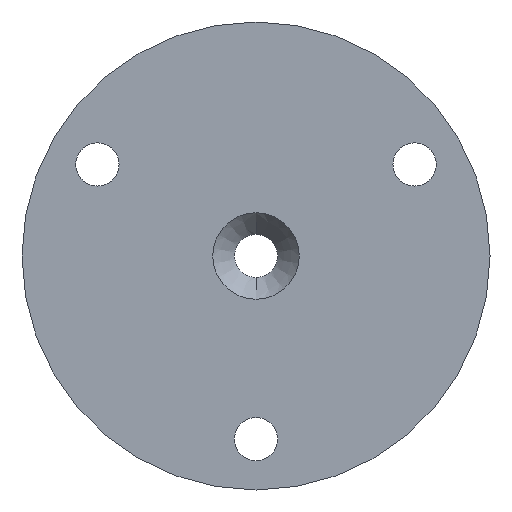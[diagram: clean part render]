
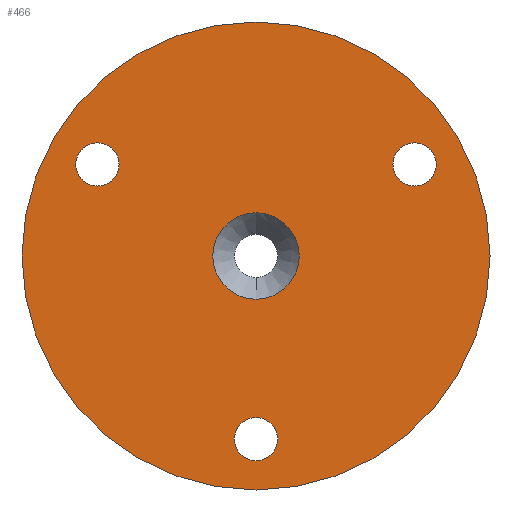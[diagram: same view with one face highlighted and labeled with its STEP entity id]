
A CAD part, front view. The second image highlights one B-rep face of the part: STEP entity #466.
In plain terms, the highlighted planar face has unit normal (0, -1, 0).
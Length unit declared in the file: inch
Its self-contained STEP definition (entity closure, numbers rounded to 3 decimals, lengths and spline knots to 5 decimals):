
#17 = ORIENTED_EDGE ( 'NONE', *, *, #82, .F. ) ;
#26 = AXIS2_PLACEMENT_3D ( 'NONE', #704, #321, #773 ) ;
#51 = DIRECTION ( 'NONE',  ( 0., 1., 0. ) ) ;
#56 = FACE_BOUND ( 'NONE', #469, .T. ) ;
#63 = FACE_BOUND ( 'NONE', #724, .T. ) ;
#76 = CIRCLE ( 'NONE', #26, 0.2655 ) ;
#78 = VERTEX_POINT ( 'NONE', #598 ) ;
#82 = EDGE_CURVE ( 'NONE', #689, #456, #242, .T. ) ;
#90 = DIRECTION ( 'NONE',  ( 0., 0., 1. ) ) ;
#103 = CARTESIAN_POINT ( 'NONE',  ( -0.97428, -0.125, 0.5625 ) ) ;
#120 = CARTESIAN_POINT ( 'NONE',  ( 0., -0.125, -1.125 ) ) ;
#124 = EDGE_LOOP ( 'NONE', ( #551, #230 ) ) ;
#127 = CARTESIAN_POINT ( 'NONE',  ( 0., -0.125, 0. ) ) ;
#137 = ORIENTED_EDGE ( 'NONE', *, *, #531, .T. ) ;
#143 = ORIENTED_EDGE ( 'NONE', *, *, #297, .T. ) ;
#149 = ORIENTED_EDGE ( 'NONE', *, *, #803, .F. ) ;
#160 = AXIS2_PLACEMENT_3D ( 'NONE', #255, #703, #320 ) ;
#161 = CIRCLE ( 'NONE', #457, 0.133 ) ;
#174 = CARTESIAN_POINT ( 'NONE',  ( 0., -0.125, 0. ) ) ;
#230 = ORIENTED_EDGE ( 'NONE', *, *, #250, .F. ) ;
#232 = CARTESIAN_POINT ( 'NONE',  ( 0., -0.125, 0. ) ) ;
#234 = AXIS2_PLACEMENT_3D ( 'NONE', #673, #328, #777 ) ;
#238 = EDGE_LOOP ( 'NONE', ( #143, #608 ) ) ;
#240 = DIRECTION ( 'NONE',  ( 0., 0., 1. ) ) ;
#242 = CIRCLE ( 'NONE', #365, 1.4375 ) ;
#245 = AXIS2_PLACEMENT_3D ( 'NONE', #127, #575, #90 ) ;
#250 = EDGE_CURVE ( 'NONE', #78, #537, #406, .T. ) ;
#255 = CARTESIAN_POINT ( 'NONE',  ( 0.97428, -0.125, 0.5625 ) ) ;
#262 = CIRCLE ( 'NONE', #160, 0.133 ) ;
#275 = ORIENTED_EDGE ( 'NONE', *, *, #772, .T. ) ;
#279 = CIRCLE ( 'NONE', #234, 0.133 ) ;
#281 = AXIS2_PLACEMENT_3D ( 'NONE', #232, #678, #299 ) ;
#286 = CIRCLE ( 'NONE', #245, 1.4375 ) ;
#289 = CIRCLE ( 'NONE', #651, 0.133 ) ;
#295 = CARTESIAN_POINT ( 'NONE',  ( 0., -0.125, 1.4375 ) ) ;
#297 = EDGE_CURVE ( 'NONE', #735, #641, #289, .T. ) ;
#299 = DIRECTION ( 'NONE',  ( 0., 0., 1. ) ) ;
#302 = DIRECTION ( 'NONE',  ( 0., 0., -1. ) ) ;
#320 = DIRECTION ( 'NONE',  ( 0., 0., 1. ) ) ;
#321 = DIRECTION ( 'NONE',  ( 0., -1., 0. ) ) ;
#322 = AXIS2_PLACEMENT_3D ( 'NONE', #103, #552, #240 ) ;
#327 = FACE_BOUND ( 'NONE', #124, .T. ) ;
#328 = DIRECTION ( 'NONE',  ( 0., 1., 0. ) ) ;
#336 = ORIENTED_EDGE ( 'NONE', *, *, #614, .T. ) ;
#359 = PLANE ( 'NONE',  #281 ) ;
#362 = AXIS2_PLACEMENT_3D ( 'NONE', #120, #568, #688 ) ;
#365 = AXIS2_PLACEMENT_3D ( 'NONE', #804, #385, #627 ) ;
#382 = FACE_OUTER_BOUND ( 'NONE', #671, .T. ) ;
#385 = DIRECTION ( 'NONE',  ( 0., 1., 0. ) ) ;
#406 = CIRCLE ( 'NONE', #567, 0.2655 ) ;
#435 = CARTESIAN_POINT ( 'NONE',  ( 0.97428, -0.125, 0.4295 ) ) ;
#440 = CARTESIAN_POINT ( 'NONE',  ( 0.97428, -0.125, 0.5625 ) ) ;
#456 = VERTEX_POINT ( 'NONE', #295 ) ;
#457 = AXIS2_PLACEMENT_3D ( 'NONE', #440, #51, #502 ) ;
#464 = CARTESIAN_POINT ( 'NONE',  ( -0.97428, -0.125, 0.6955 ) ) ;
#466 = ADVANCED_FACE ( 'NONE', ( #327, #63, #518, #56, #382 ), #359, .F. ) ;
#469 = EDGE_LOOP ( 'NONE', ( #275, #336 ) ) ;
#471 = DIRECTION ( 'NONE',  ( 0., 0., 1. ) ) ;
#476 = CARTESIAN_POINT ( 'NONE',  ( 0., -0.125, -0.2655 ) ) ;
#477 = EDGE_CURVE ( 'NONE', #561, #534, #279, .T. ) ;
#486 = EDGE_CURVE ( 'NONE', #641, #735, #513, .T. ) ;
#488 = CIRCLE ( 'NONE', #362, 0.133 ) ;
#489 = VERTEX_POINT ( 'NONE', #435 ) ;
#502 = DIRECTION ( 'NONE',  ( 0., 0., 1. ) ) ;
#513 = CIRCLE ( 'NONE', #322, 0.133 ) ;
#518 = FACE_BOUND ( 'NONE', #238, .T. ) ;
#531 = EDGE_CURVE ( 'NONE', #534, #561, #488, .T. ) ;
#533 = DIRECTION ( 'NONE',  ( 0., 1., 0. ) ) ;
#534 = VERTEX_POINT ( 'NONE', #684 ) ;
#535 = CARTESIAN_POINT ( 'NONE',  ( -0.97428, -0.125, 0.5625 ) ) ;
#537 = VERTEX_POINT ( 'NONE', #476 ) ;
#551 = ORIENTED_EDGE ( 'NONE', *, *, #744, .F. ) ;
#552 = DIRECTION ( 'NONE',  ( 0., 1., 0. ) ) ;
#561 = VERTEX_POINT ( 'NONE', #760 ) ;
#567 = AXIS2_PLACEMENT_3D ( 'NONE', #174, #669, #302 ) ;
#568 = DIRECTION ( 'NONE',  ( 0., 1., 0. ) ) ;
#575 = DIRECTION ( 'NONE',  ( 0., 1., 0. ) ) ;
#598 = CARTESIAN_POINT ( 'NONE',  ( 0., -0.125, 0.2655 ) ) ;
#608 = ORIENTED_EDGE ( 'NONE', *, *, #486, .T. ) ;
#614 = EDGE_CURVE ( 'NONE', #489, #659, #161, .T. ) ;
#627 = DIRECTION ( 'NONE',  ( 0., 0., 1. ) ) ;
#641 = VERTEX_POINT ( 'NONE', #796 ) ;
#651 = AXIS2_PLACEMENT_3D ( 'NONE', #535, #533, #471 ) ;
#659 = VERTEX_POINT ( 'NONE', #767 ) ;
#669 = DIRECTION ( 'NONE',  ( 0., -1., 0. ) ) ;
#671 = EDGE_LOOP ( 'NONE', ( #17, #149 ) ) ;
#673 = CARTESIAN_POINT ( 'NONE',  ( 0., -0.125, -1.125 ) ) ;
#678 = DIRECTION ( 'NONE',  ( 0., 1., 0. ) ) ;
#684 = CARTESIAN_POINT ( 'NONE',  ( 0., -0.125, -0.992 ) ) ;
#688 = DIRECTION ( 'NONE',  ( 0., 0., 1. ) ) ;
#689 = VERTEX_POINT ( 'NONE', #815 ) ;
#703 = DIRECTION ( 'NONE',  ( 0., 1., 0. ) ) ;
#704 = CARTESIAN_POINT ( 'NONE',  ( 0., -0.125, 0. ) ) ;
#724 = EDGE_LOOP ( 'NONE', ( #137, #833 ) ) ;
#735 = VERTEX_POINT ( 'NONE', #464 ) ;
#744 = EDGE_CURVE ( 'NONE', #537, #78, #76, .T. ) ;
#760 = CARTESIAN_POINT ( 'NONE',  ( 0., -0.125, -1.258 ) ) ;
#767 = CARTESIAN_POINT ( 'NONE',  ( 0.97428, -0.125, 0.6955 ) ) ;
#772 = EDGE_CURVE ( 'NONE', #659, #489, #262, .T. ) ;
#773 = DIRECTION ( 'NONE',  ( 0., 0., -1. ) ) ;
#777 = DIRECTION ( 'NONE',  ( 0., 0., 1. ) ) ;
#796 = CARTESIAN_POINT ( 'NONE',  ( -0.97428, -0.125, 0.4295 ) ) ;
#803 = EDGE_CURVE ( 'NONE', #456, #689, #286, .T. ) ;
#804 = CARTESIAN_POINT ( 'NONE',  ( 0., -0.125, 0. ) ) ;
#815 = CARTESIAN_POINT ( 'NONE',  ( 0., -0.125, -1.4375 ) ) ;
#833 = ORIENTED_EDGE ( 'NONE', *, *, #477, .T. ) ;
